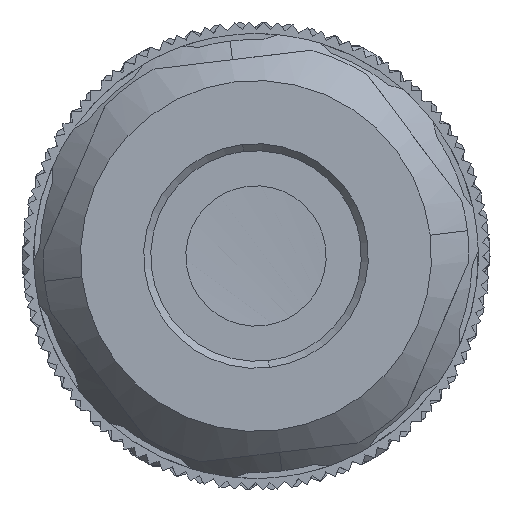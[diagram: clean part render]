
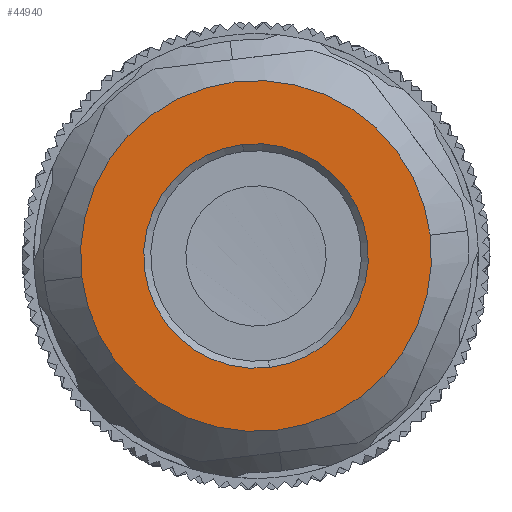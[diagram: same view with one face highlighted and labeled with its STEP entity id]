
A CAD part, left-side view. The second image highlights one B-rep face of the part: STEP entity #44940.
In plain terms, the highlighted planar face has unit normal (-1, 0, 0).
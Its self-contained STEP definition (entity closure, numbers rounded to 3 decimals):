
#526 = EDGE_CURVE ( 'NONE', #2911, #35110, #43399, .T. ) ;
#2528 = FACE_BOUND ( 'NONE', #42459, .T. ) ;
#2911 = VERTEX_POINT ( 'NONE', #48409 ) ;
#2920 = DIRECTION ( 'NONE',  ( 0., -0.993, 0.119 ) ) ;
#3091 = CARTESIAN_POINT ( 'NONE',  ( -30.839, 0., 0. ) ) ;
#3922 = ORIENTED_EDGE ( 'NONE', *, *, #17806, .F. ) ;
#4911 = FACE_OUTER_BOUND ( 'NONE', #12685, .T. ) ;
#7187 = VERTEX_POINT ( 'NONE', #16093 ) ;
#11541 = CARTESIAN_POINT ( 'NONE',  ( -30.839, 7.447, -0.892 ) ) ;
#11596 = DIRECTION ( 'NONE',  ( 1., 0., 0. ) ) ;
#12143 = CARTESIAN_POINT ( 'NONE',  ( -30.839, 0.571, 4.766 ) ) ;
#12674 = DIRECTION ( 'NONE',  ( 0., 0.119, 0.993 ) ) ;
#12685 = EDGE_LOOP ( 'NONE', ( #32299, #3922 ) ) ;
#14521 = ORIENTED_EDGE ( 'NONE', *, *, #526, .F. ) ;
#15489 = CARTESIAN_POINT ( 'NONE',  ( -30.839, 0., 0. ) ) ;
#16093 = CARTESIAN_POINT ( 'NONE',  ( -30.839, -7.447, 0.892 ) ) ;
#16174 = EDGE_CURVE ( 'NONE', #7187, #40160, #22486, .T. ) ;
#16653 = AXIS2_PLACEMENT_3D ( 'NONE', #3091, #18124, #2920 ) ;
#17481 = AXIS2_PLACEMENT_3D ( 'NONE', #15489, #26842, #12674 ) ;
#17806 = EDGE_CURVE ( 'NONE', #40160, #7187, #23010, .T. ) ;
#18124 = DIRECTION ( 'NONE',  ( 1., 0., 0. ) ) ;
#18536 = DIRECTION ( 'NONE',  ( -1., 0., 0. ) ) ;
#22182 = CARTESIAN_POINT ( 'NONE',  ( -30.839, 0., 0. ) ) ;
#22486 = CIRCLE ( 'NONE', #16653, 7.5 ) ;
#23006 = CARTESIAN_POINT ( 'NONE',  ( -30.839, 0., 0. ) ) ;
#23010 = CIRCLE ( 'NONE', #33990, 7.5 ) ;
#26755 = ORIENTED_EDGE ( 'NONE', *, *, #44922, .F. ) ;
#26842 = DIRECTION ( 'NONE',  ( -1., 0., 0. ) ) ;
#27514 = DIRECTION ( 'NONE',  ( 0., -0.119, -0.993 ) ) ;
#28197 = AXIS2_PLACEMENT_3D ( 'NONE', #38041, #35213, #27514 ) ;
#32299 = ORIENTED_EDGE ( 'NONE', *, *, #16174, .F. ) ;
#33990 = AXIS2_PLACEMENT_3D ( 'NONE', #23006, #11596, #37965 ) ;
#35110 = VERTEX_POINT ( 'NONE', #12143 ) ;
#35213 = DIRECTION ( 'NONE',  ( 1., 0., 0. ) ) ;
#36640 = DIRECTION ( 'NONE',  ( 0., 0.119, 0.993 ) ) ;
#37965 = DIRECTION ( 'NONE',  ( 0., -0.993, 0.119 ) ) ;
#38041 = CARTESIAN_POINT ( 'NONE',  ( -30.839, 0., 0. ) ) ;
#39681 = CIRCLE ( 'NONE', #17481, 4.8 ) ;
#40160 = VERTEX_POINT ( 'NONE', #11541 ) ;
#42459 = EDGE_LOOP ( 'NONE', ( #26755, #14521 ) ) ;
#43399 = CIRCLE ( 'NONE', #45684, 4.8 ) ;
#44922 = EDGE_CURVE ( 'NONE', #35110, #2911, #39681, .T. ) ;
#44940 = ADVANCED_FACE ( 'NONE', ( #4911, #2528 ), #45427, .F. ) ;
#45427 = PLANE ( 'NONE',  #28197 ) ;
#45684 = AXIS2_PLACEMENT_3D ( 'NONE', #22182, #18536, #36640 ) ;
#48409 = CARTESIAN_POINT ( 'NONE',  ( -30.839, -0.571, -4.766 ) ) ;
